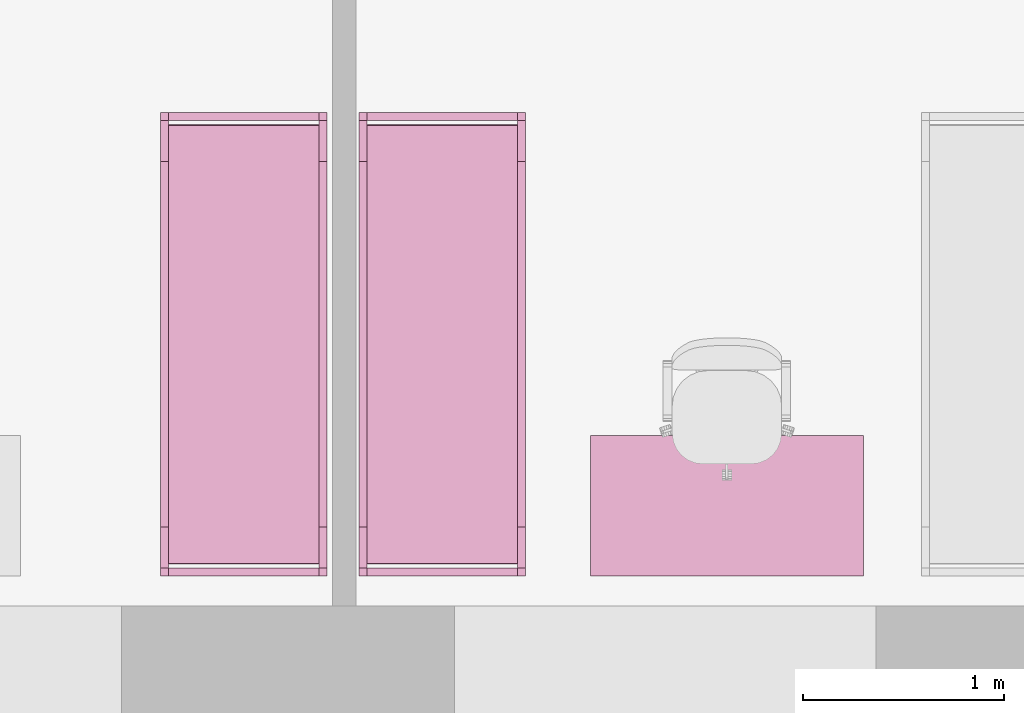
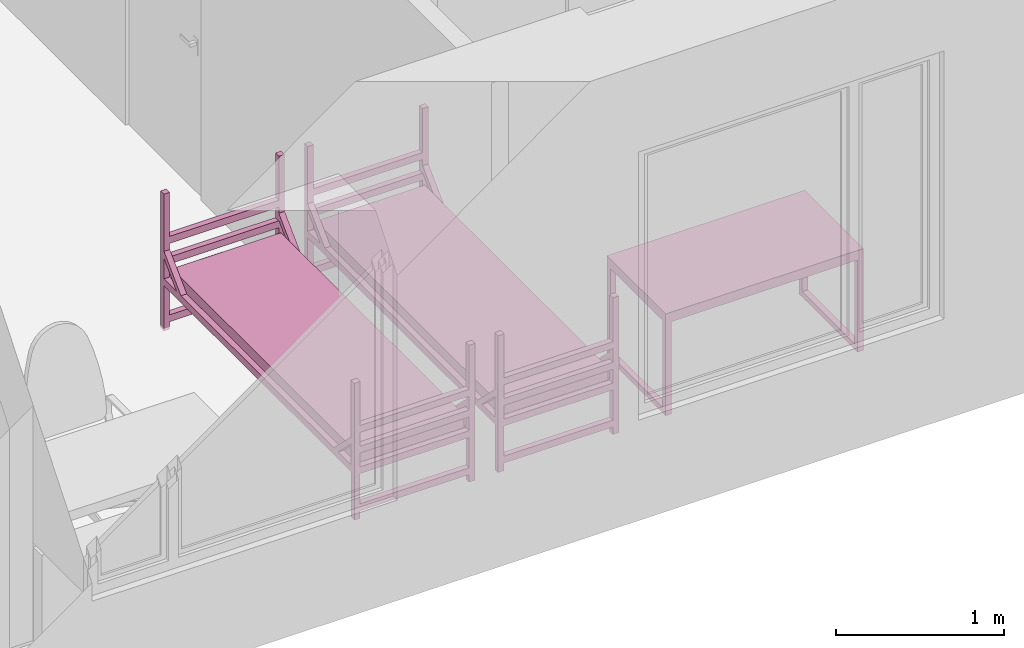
# One storey, part 31 of 48: 3 furnishings.
"""IFC2X3 building model written with IfcOpenShell, lengths in millimetres."""

from ifc_helpers import new_model, entity, si_unit, converted_unit, derived_unit, direction, frame, frame_2d, origin, origin_2d_with_axis, place, context, subcontext, project, spatial, polyline, circle_curve, parameter, trimmed, segment, composite_curve, rectangle, outline, extrude, faceted_brep, source, transform, mapped, material, material_list, type_object, type_shapes, element, save


model = new_model("IFC2X3")

# Units and contexts
model_context = context("Model", 3, precision=0.01, world=origin(), true_north=direction((6.12303176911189e-17, 1.0)))
body_context = subcontext(model_context, "Body", "Model", "MODEL_VIEW")
ifc_project = project(units=[si_unit("LENGTHUNIT", "METRE", prefix="MILLI"), si_unit("AREAUNIT", "SQUARE_METRE"), si_unit("VOLUMEUNIT", "CUBIC_METRE"), converted_unit("PLANEANGLEUNIT", "DEGREE", entity("IfcRatioMeasure", 0.0174532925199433), si_unit("PLANEANGLEUNIT", "RADIAN"), dimensions=[0, 0, 0, 0, 0, 0, 0]), si_unit("MASSUNIT", "GRAM", prefix="KILO"), derived_unit("MASSDENSITYUNIT", [(si_unit("MASSUNIT", "GRAM", prefix="KILO"), 1), (si_unit("LENGTHUNIT", "METRE"), -3)]), si_unit("TIMEUNIT", "SECOND"), si_unit("FREQUENCYUNIT", "HERTZ"), si_unit("THERMODYNAMICTEMPERATUREUNIT", "DEGREE_CELSIUS"), derived_unit("THERMALTRANSMITTANCEUNIT", [(si_unit("MASSUNIT", "GRAM", prefix="KILO"), 1), (si_unit("THERMODYNAMICTEMPERATUREUNIT", "KELVIN"), -1), (si_unit("TIMEUNIT", "SECOND"), -3)]), derived_unit("VOLUMETRICFLOWRATEUNIT", [(si_unit("LENGTHUNIT", "METRE"), 3), (si_unit("TIMEUNIT", "SECOND"), -1)]), si_unit("ELECTRICCURRENTUNIT", "AMPERE"), si_unit("ELECTRICVOLTAGEUNIT", "VOLT"), si_unit("POWERUNIT", "WATT"), si_unit("FORCEUNIT", "NEWTON", prefix="KILO"), si_unit("ILLUMINANCEUNIT", "LUX"), si_unit("LUMINOUSFLUXUNIT", "LUMEN"), si_unit("LUMINOUSINTENSITYUNIT", "CANDELA"), derived_unit("USERDEFINED", [(si_unit("MASSUNIT", "GRAM", prefix="KILO"), -1), (si_unit("LENGTHUNIT", "METRE"), -2), (si_unit("TIMEUNIT", "SECOND"), 3), (si_unit("LUMINOUSFLUXUNIT", "LUMEN"), 1)]), derived_unit("LINEARVELOCITYUNIT", [(si_unit("LENGTHUNIT", "METRE"), 1), (si_unit("TIMEUNIT", "SECOND"), -1)]), si_unit("PRESSUREUNIT", "PASCAL"), derived_unit("USERDEFINED", [(si_unit("LENGTHUNIT", "METRE"), -2), (si_unit("MASSUNIT", "GRAM", prefix="KILO"), 1), (si_unit("TIMEUNIT", "SECOND"), -2)]), derived_unit("LINEARFORCEUNIT", [(si_unit("MASSUNIT", "GRAM", prefix="KILO"), 1), (si_unit("LENGTHUNIT", "METRE"), 1), (si_unit("TIMEUNIT", "SECOND"), -2), (si_unit("LENGTHUNIT", "METRE"), -1)]), derived_unit("PLANARFORCEUNIT", [(si_unit("MASSUNIT", "GRAM", prefix="KILO"), 1), (si_unit("LENGTHUNIT", "METRE"), 1), (si_unit("TIMEUNIT", "SECOND"), -2), (si_unit("LENGTHUNIT", "METRE"), -2)])], contexts=[model_context])

# Site, building, storey, space
site_placement = place(None, origin())
site = spatial("IfcSite", under=ifc_project, at=site_placement, Name="Default", CompositionType="ELEMENT")
building_placement = place(site_placement, origin())
building = spatial("IfcBuilding", under=site, at=building_placement, Name="SMA ARH", CompositionType="ELEMENT")
storey_placement = place(building_placement, frame((0.0, 0.0, 6600.0)))
storey = spatial("IfcBuildingStorey", under=building, at=storey_placement, Name="3 Korrus", CompositionType="ELEMENT", Elevation=6599.99999999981)
space_1_placement = place(storey_placement, origin())
space_1 = spatial("IfcSpace", under=storey, at=space_1_placement, Name="3-9", CompositionType="ELEMENT", InteriorOrExteriorSpace="INTERNAL")

# Furnishing
ifc_material_1 = material(Name="Madrats")
furniture_type_1 = type_object("IfcFurnitureType", Name="Kasarmu voodi ühekordne 2308x830:Kasarmu voodi ühekordne 2308x830", material=ifc_material_1)
shared_shape_1 = source(origin(), body_context, "Body", "SweptSolid", [
    extrude(rectangle(XDim=39.9999999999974, YDim=750.000000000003, at=frame_2d((-1.35003119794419e-13, -2.8421709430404e-14), x_axis=(1.0, 0.0))), frame((1.68638457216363, -1226.7969571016, 55.0), z_axis=(0.0, 0.0, 1.0), x_axis=(0.0, -1.0, 0.0)), (0.0, 0.0, 1.0), 49.9999999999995),
    extrude(rectangle(XDim=39.9999999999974, YDim=750.000000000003, at=frame_2d((-1.35003119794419e-13, -2.8421709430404e-14), x_axis=(1.0, 0.0))), frame((1.68638457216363, -1226.7969571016, 325.0), z_axis=(0.0, 0.0, 1.0), x_axis=(0.0, -1.0, 0.0)), (0.0, 0.0, 1.0), 49.9999999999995),
    extrude(rectangle(XDim=39.9999999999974, YDim=750.000000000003, at=frame_2d((-1.35003119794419e-13, -2.8421709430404e-14), x_axis=(1.0, 0.0))), frame((1.68638457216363, -1226.7969571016, 475.0), z_axis=(0.0, 0.0, 1.0), x_axis=(0.0, -1.0, 0.0)), (0.0, 0.0, 1.0), 49.9999999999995),
    extrude(rectangle(XDim=39.9999999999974, YDim=750.000000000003, at=frame_2d((-1.35003119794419e-13, -2.8421709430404e-14), x_axis=(1.0, 0.0))), frame((1.68638457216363, -1226.7969571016, 625.0), z_axis=(0.0, 0.0, 1.0), x_axis=(0.0, -1.0, 0.0)), (0.0, 0.0, 1.0), 50.0000000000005),
    extrude(rectangle(XDim=39.9999999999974, YDim=750.000000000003, at=frame_2d((1.35003119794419e-13, -2.8421709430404e-14), x_axis=(1.0, 0.0))), frame((1.68638457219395, 1041.2030428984, 55.0), z_axis=(0.0, 0.0, 1.0), x_axis=(0.0, -1.0, 0.0)), (0.0, 0.0, 1.0), 50.0000000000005),
    extrude(rectangle(XDim=39.9999999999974, YDim=750.000000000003, at=frame_2d((1.35003119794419e-13, -2.8421709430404e-14), x_axis=(1.0, 0.0))), frame((1.68638457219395, 1041.2030428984, 325.0), z_axis=(0.0, 0.0, 1.0), x_axis=(0.0, -1.0, 0.0)), (0.0, 0.0, 1.0), 50.0000000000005),
    extrude(rectangle(XDim=39.9999999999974, YDim=750.000000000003, at=frame_2d((1.35003119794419e-13, -2.8421709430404e-14), x_axis=(1.0, 0.0))), frame((1.68638457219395, 1041.2030428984, 475.0), z_axis=(0.0, 0.0, 1.0), x_axis=(0.0, -1.0, 0.0)), (0.0, 0.0, 1.0), 50.0000000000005),
    extrude(rectangle(XDim=39.9999999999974, YDim=750.000000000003, at=frame_2d((1.35003119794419e-13, -2.8421709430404e-14), x_axis=(1.0, 0.0))), frame((1.68638457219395, 1041.2030428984, 625.0), z_axis=(0.0, 0.0, 1.0), x_axis=(0.0, -1.0, 0.0)), (0.0, 0.0, 1.0), 49.9999999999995),
    extrude(outline(composite_curve([segment(trimmed(circle_curve(frame_2d((1085.0, -40.0), x_axis=(1.0, 0.0)), 10.0), [parameter(270.0)], [parameter(0.0)], True, "PARAMETER"), True, "CONTINUOUS"), segment(polyline([(1095.0, -40.0), (1095.0, 40.0)]), True, "CONTINUOUS"), segment(trimmed(circle_curve(frame_2d((1085.0, 40.0), x_axis=(1.0, 0.0)), 10.0), [parameter(0.0)], [parameter(90.0000000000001)], True, "PARAMETER"), True, "CONTINUOUS"), segment(polyline([(1085.0, 50.0), (-1085.0, 50.0)]), True, "CONTINUOUS"), segment(trimmed(circle_curve(frame_2d((-1085.0, 40.0), x_axis=(1.0, 0.0)), 10.0), [parameter(90.0000000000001)], [parameter(180.0)], True, "PARAMETER"), True, "CONTINUOUS"), segment(polyline([(-1095.0, 40.0), (-1095.0, -40.0)]), True, "CONTINUOUS"), segment(trimmed(circle_curve(frame_2d((-1085.0, -40.0), x_axis=(1.0, 0.0)), 10.0), [parameter(180.0)], [parameter(270.0)], True, "PARAMETER"), True, "CONTINUOUS"), segment(polyline([(-1085.0, -50.0), (1085.0, -50.0)]), True, "CONTINUOUS")], self_intersect=False)), frame((-373.313615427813, -92.7969571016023, 405.0), z_axis=(1.0, 0.0, 0.0), x_axis=(0.0, -1.0, 0.0)), (0.0, 0.0, 1.0), 750.000000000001),
    extrude(outline(polyline([(-1114.0, -100.0), (1114.0, -100.0), (1114.0, -50.0), (961.59199141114, -50.0), (1114.0, 100.0), (1114.0, 150.0), (910.789321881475, -50.0), (-910.789321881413, -50.0), (-1114.0, 150.0), (-1114.0, 100.0), (-961.591991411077, -50.0), (-1114.0, -50.0), (-1114.0, -100.0)])), frame((-413.313615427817, -92.7969571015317, 430.0), z_axis=(1.0, 0.0, 0.0), x_axis=(0.0, 1.0, 0.0)), (0.0, 0.0, 1.0), 39.9999999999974),
    extrude(outline(polyline([(-1114.0, -100.0), (1114.0, -100.0), (1114.0, -50.0), (961.591991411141, -50.0), (1114.0, 100.0), (1114.0, 150.0), (910.789321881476, -50.0), (-910.789321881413, -50.0), (-1114.0, 150.0), (-1114.0, 100.0), (-961.591991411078, -50.0), (-1114.0, -50.0), (-1114.0, -100.0)])), frame((376.686384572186, -92.796957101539, 430.0), z_axis=(1.0, 0.0, 0.0), x_axis=(0.0, 1.0, 0.0)), (0.0, 0.0, 1.0), 39.9999999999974),
    extrude(rectangle(XDim=39.9999999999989, YDim=39.9999999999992, at=frame_2d((-6.75015598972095e-14, 0.0), x_axis=(1.0, 0.0))), frame((396.686384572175, -1226.79695710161, 0.0), z_axis=(0.0, 0.0, 1.0), x_axis=(0.0, 1.0, 0.0)), (0.0, 0.0, 1.0), 995.0),
    extrude(rectangle(XDim=39.9999999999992, YDim=39.9999999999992, at=frame_2d((-1.35003119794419e-13, 0.0), x_axis=(1.0, 0.0))), frame((396.686384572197, 1041.20304289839, 0.0), z_axis=(0.0, 0.0, 1.0), x_axis=(0.0, 1.0, 0.0)), (0.0, 0.0, 1.0), 995.0),
    extrude(rectangle(XDim=40.0000000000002, YDim=39.9999999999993, at=frame_2d((-1.35003119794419e-13, 0.0), x_axis=(1.0, 0.0))), frame((-393.313615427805, 1041.2030428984, 0.0), z_axis=(0.0, 0.0, 1.0), x_axis=(0.0, 1.0, 0.0)), (0.0, 0.0, 1.0), 995.0),
    extrude(rectangle(XDim=39.9999999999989, YDim=39.9999999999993, at=frame_2d((-6.75015598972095e-14, 0.0), x_axis=(1.0, 0.0))), frame((-393.313615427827, -1226.7969571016, 0.0), z_axis=(0.0, 0.0, 1.0), x_axis=(0.0, 1.0, 0.0)), (0.0, 0.0, 1.0), 995.0),
])
type_shapes(furniture_type_1, [shared_shape_1])
furnishing_1_placement = place(space_1_placement, frame((19032.1863845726, 1211.20304289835, 0.0), z_axis=(0.0, 0.0, 1.0), x_axis=(-1.0, 0.0, 0.0)))
element("IfcFurnishingElement", 1, at=furnishing_1_placement, inside=space_1, type_object=furniture_type_1, material=ifc_material_1, Name="Kasarmu voodi ühekordne 2308x830:Kasarmu voodi ühekordne 2308x830", ObjectType="Kasarmu voodi ühekordne 2308x830:Kasarmu voodi ühekordne 2308x830", context=body_context, shape_type="MappedRepresentation", body=[
    mapped(shared_shape_1, transform((0.0, 0.0, 0.0), scale=1.0)),
])

# Space
space_2_placement = place(storey_placement, origin())
space_2 = spatial("IfcSpace", under=storey, at=space_2_placement, Name="3-8", CompositionType="ELEMENT", InteriorOrExteriorSpace="INTERNAL")

# Furnishings
ifc_material_2 = material(Name="<Unnamed>")
ifc_material_list = material_list([ifc_material_2, ifc_material_2])
furniture_type_2 = type_object("IfcFurnitureType", Name="kirjutuslaud 1360x700mm:kirjutuslaud 1360x700mm", material=ifc_material_list)
shared_shape_2 = source(origin(), body_context, "Body", "Brep", [
    faceted_brep([(680.0, -350.0, 720.0), (680.0, 350.0, 720.0), (680.0, 350.0, 750.0), (680.0, -350.0, 750.0), (-680.0, -350.0, 720.0), (-680.0, -350.0, 750.0), (-680.0, 350.0, 750.0), (-680.0, 350.0, 720.0)], [[[0, 1, 2, 3]], [[4, 5, 6, 7]], [[1, 0, 4, 7]], [[2, 1, 7, 6]], [[3, 2, 6, 5]], [[0, 3, 5, 4]]]),
    faceted_brep([(-640.0, -310.0, 680.0), (-640.0, 310.0, 680.0), (-640.0, 310.0, 720.0), (-640.0, -310.0, 720.0), (-680.0, -350.0, 720.0), (-680.0, 350.0, 720.0), (-680.0, 350.0, 10.0), (-680.0, -350.0, 10.0), (-680.0, 310.0, 680.0), (-680.0, -310.0, 680.0), (-680.0, -310.0, 50.0), (-680.0, 310.0, 50.0), (-640.0, -350.0, 10.0), (-640.0, -350.0, 680.0), (640.0, -350.0, 680.0), (640.0, -350.0, 10.0), (680.0, -350.0, 10.0), (680.0, -350.0, 720.0), (-640.0, 350.0, 10.0), (680.0, 350.0, 720.0), (680.0, 350.0, 10.0), (640.0, 350.0, 10.0), (640.0, 350.0, 680.0), (-640.0, 350.0, 680.0), (640.0, 310.0, 720.0), (640.0, -310.0, 720.0), (-640.0, 310.0, 50.0), (-640.0, -310.0, 50.0), (640.0, -310.0, 680.0), (640.0, 310.0, 680.0), (680.0, 310.0, 680.0), (680.0, 310.0, 50.0), (680.0, -310.0, 50.0), (680.0, -310.0, 680.0), (640.0, -310.0, 50.0), (640.0, 310.0, 50.0)], [[[0, 1, 2, 3]], [[4, 5, 6, 7], [8, 9, 10, 11]], [[4, 7, 12, 13, 14, 15, 16, 17]], [[18, 12, 7, 6]], [[6, 5, 19, 20, 21, 22, 23, 18]], [[19, 5, 4, 17], [2, 24, 25, 3]], [[26, 1, 8, 11]], [[27, 26, 11, 10]], [[0, 27, 10, 9]], [[1, 0, 9, 8]], [[14, 13, 0, 28]], [[24, 2, 1, 29]], [[3, 25, 28, 0]], [[17, 16, 20, 19], [30, 31, 32, 33]], [[21, 15, 14, 28, 34, 35, 29, 22]], [[20, 16, 15, 21]], [[31, 30, 29, 35]], [[32, 31, 35, 34]], [[33, 32, 34, 28]], [[30, 33, 28, 29]], [[29, 28, 25, 24]], [[29, 1, 23, 22]], [[12, 18, 23, 1, 26, 27, 0, 13]]]),
    faceted_brep([(-663.729456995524, -270.466136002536, 0.0), (-659.847171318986, -269.955023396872, 0.0), (-655.964885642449, -270.466136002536, 0.0), (-652.347171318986, -271.964642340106, 0.0), (-649.240569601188, -274.348421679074, 0.0), (-646.85679026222, -277.455023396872, 0.0), (-645.35828392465, -281.072737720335, 0.0), (-644.847171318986, -284.955023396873, 0.0), (-645.35828392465, -288.83730907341, 0.0), (-646.85679026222, -292.455023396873, 0.0), (-649.240569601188, -295.561625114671, 0.0), (-652.347171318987, -297.945404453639, 0.0), (-655.964885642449, -299.443910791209, 0.0), (-659.847171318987, -299.955023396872, 0.0), (-663.729456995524, -299.443910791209, 0.0), (-667.347171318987, -297.945404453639, 0.0), (-670.453773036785, -295.561625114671, 0.0), (-672.837552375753, -292.455023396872, 0.0), (-674.336058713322, -288.83730907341, 0.0), (-674.847171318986, -284.955023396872, 0.0), (-674.336058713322, -281.072737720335, 0.0), (-672.837552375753, -277.455023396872, 0.0), (-670.453773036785, -274.348421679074, 0.0), (-667.347171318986, -271.964642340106, 0.0), (-655.964885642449, -299.443910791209, 10.0), (-652.347171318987, -297.945404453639, 10.0), (-649.240569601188, -295.561625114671, 10.0), (-646.85679026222, -292.455023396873, 10.0), (-645.35828392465, -288.83730907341, 10.0), (-644.847171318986, -284.955023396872, 10.0), (-645.35828392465, -281.072737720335, 10.0), (-646.85679026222, -277.455023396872, 10.0), (-649.240569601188, -274.348421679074, 10.0), (-652.347171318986, -271.964642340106, 10.0), (-655.964885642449, -270.466136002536, 10.0), (-659.847171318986, -269.955023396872, 10.0), (-663.729456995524, -270.466136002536, 10.0), (-667.347171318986, -271.964642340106, 10.0), (-670.453773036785, -274.348421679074, 10.0), (-672.837552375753, -277.455023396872, 10.0), (-674.336058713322, -281.072737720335, 10.0), (-674.847171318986, -284.955023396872, 10.0), (-674.336058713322, -288.83730907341, 10.0), (-672.837552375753, -292.455023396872, 10.0), (-670.453773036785, -295.561625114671, 10.0), (-667.347171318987, -297.945404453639, 10.0), (-663.729456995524, -299.443910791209, 10.0), (-659.847171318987, -299.955023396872, 10.0)], [[[0, 1, 2, 3, 4, 5, 6, 7, 8, 9, 10, 11, 12, 13, 14, 15, 16, 17, 18, 19, 20, 21, 22, 23]], [[24, 25, 26, 27, 28, 29, 30, 31, 32, 33, 34, 35, 36, 37, 38, 39, 40, 41, 42, 43, 44, 45, 46, 47]], [[18, 42, 41, 19]], [[17, 43, 42, 18]], [[45, 44, 16, 15]], [[17, 16, 44, 43]], [[46, 45, 15, 14]], [[47, 46, 14, 13]], [[12, 24, 47, 13]], [[11, 25, 24, 12]], [[27, 26, 10, 9]], [[11, 10, 26, 25]], [[28, 27, 9, 8]], [[29, 28, 8, 7]], [[6, 30, 29, 7]], [[5, 31, 30, 6]], [[33, 32, 4, 3]], [[5, 4, 32, 31]], [[34, 33, 3, 2]], [[35, 34, 2, 1]], [[0, 36, 35, 1]], [[23, 37, 36, 0]], [[39, 38, 22, 21]], [[23, 22, 38, 37]], [[40, 39, 21, 20]], [[41, 40, 20, 19]]]),
    faceted_brep([(-655.964885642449, 270.466136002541, 10.0), (-652.347171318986, 271.964642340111, 10.0), (-649.240569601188, 274.348421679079, 10.0), (-646.85679026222, 277.455023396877, 10.0), (-645.35828392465, 281.07273772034, 10.0), (-644.847171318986, 284.955023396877, 10.0), (-645.35828392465, 288.837309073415, 10.0), (-646.85679026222, 292.455023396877, 10.0), (-649.240569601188, 295.561625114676, 10.0), (-652.347171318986, 297.945404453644, 10.0), (-655.964885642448, 299.443910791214, 10.0), (-659.847171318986, 299.955023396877, 10.0), (-663.729456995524, 299.443910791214, 10.0), (-667.347171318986, 297.945404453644, 10.0), (-670.453773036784, 295.561625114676, 10.0), (-672.837552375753, 292.455023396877, 10.0), (-674.336058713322, 288.837309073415, 10.0), (-674.847171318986, 284.955023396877, 10.0), (-674.336058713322, 281.07273772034, 10.0), (-672.837552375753, 277.455023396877, 10.0), (-670.453773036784, 274.348421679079, 10.0), (-667.347171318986, 271.964642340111, 10.0), (-663.729456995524, 270.466136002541, 10.0), (-659.847171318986, 269.955023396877, 10.0), (-655.964885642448, 299.443910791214, 0.0), (-652.347171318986, 297.945404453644, 0.0), (-649.240569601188, 295.561625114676, 0.0), (-646.85679026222, 292.455023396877, 0.0), (-645.35828392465, 288.837309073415, 0.0), (-644.847171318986, 284.955023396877, 0.0), (-645.35828392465, 281.07273772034, 0.0), (-646.85679026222, 277.455023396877, 0.0), (-649.240569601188, 274.348421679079, 0.0), (-652.347171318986, 271.964642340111, 0.0), (-655.964885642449, 270.466136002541, 0.0), (-659.847171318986, 269.955023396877, 0.0), (-663.729456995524, 270.466136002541, 0.0), (-667.347171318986, 271.964642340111, 0.0), (-670.453773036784, 274.348421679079, 0.0), (-672.837552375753, 277.455023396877, 0.0), (-674.336058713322, 281.07273772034, 0.0), (-674.847171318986, 284.955023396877, 0.0), (-674.336058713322, 288.837309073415, 0.0), (-672.837552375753, 292.455023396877, 0.0), (-670.453773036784, 295.561625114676, 0.0), (-667.347171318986, 297.945404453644, 0.0), (-663.729456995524, 299.443910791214, 0.0), (-659.847171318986, 299.955023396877, 0.0)], [[[0, 1, 2, 3, 4, 5, 6, 7, 8, 9, 10, 11, 12, 13, 14, 15, 16, 17, 18, 19, 20, 21, 22, 23]], [[24, 25, 26, 27, 28, 29, 30, 31, 32, 33, 34, 35, 36, 37, 38, 39, 40, 41, 42, 43, 44, 45, 46, 47]], [[40, 18, 17, 41]], [[39, 19, 18, 40]], [[21, 20, 38, 37]], [[39, 38, 20, 19]], [[22, 21, 37, 36]], [[23, 22, 36, 35]], [[34, 0, 23, 35]], [[33, 1, 0, 34]], [[3, 2, 32, 31]], [[33, 32, 2, 1]], [[4, 3, 31, 30]], [[5, 4, 30, 29]], [[28, 6, 5, 29]], [[27, 7, 6, 28]], [[9, 8, 26, 25]], [[27, 26, 8, 7]], [[10, 9, 25, 24]], [[11, 10, 24, 47]], [[46, 12, 11, 47]], [[45, 13, 12, 46]], [[15, 14, 44, 43]], [[45, 44, 14, 13]], [[16, 15, 43, 42]], [[17, 16, 42, 41]]]),
    faceted_brep([(656.270543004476, -270.466136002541, 0.0), (660.152828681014, -269.955023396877, 0.0), (664.035114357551, -270.466136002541, 0.0), (667.652828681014, -271.96464234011, 0.0), (670.759430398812, -274.348421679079, 0.0), (673.14320973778, -277.455023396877, 0.0), (674.64171607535, -281.072737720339, 0.0), (675.152828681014, -284.955023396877, 0.0), (674.64171607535, -288.837309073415, 0.0), (673.14320973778, -292.455023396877, 0.0), (670.759430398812, -295.561625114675, 0.0), (667.652828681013, -297.945404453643, 0.0), (664.035114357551, -299.443910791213, 0.0), (660.152828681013, -299.955023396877, 0.0), (656.270543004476, -299.443910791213, 0.0), (652.652828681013, -297.945404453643, 0.0), (649.546226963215, -295.561625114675, 0.0), (647.162447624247, -292.455023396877, 0.0), (645.663941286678, -288.837309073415, 0.0), (645.152828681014, -284.955023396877, 0.0), (645.663941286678, -281.072737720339, 0.0), (647.162447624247, -277.455023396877, 0.0), (649.546226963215, -274.348421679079, 0.0), (652.652828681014, -271.96464234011, 0.0), (664.035114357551, -299.443910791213, 10.0), (667.652828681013, -297.945404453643, 10.0), (670.759430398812, -295.561625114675, 10.0), (673.14320973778, -292.455023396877, 10.0), (674.64171607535, -288.837309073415, 10.0), (675.152828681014, -284.955023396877, 10.0), (674.64171607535, -281.072737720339, 10.0), (673.14320973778, -277.455023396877, 10.0), (670.759430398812, -274.348421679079, 10.0), (667.652828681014, -271.96464234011, 10.0), (664.035114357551, -270.466136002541, 10.0), (660.152828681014, -269.955023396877, 10.0), (656.270543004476, -270.466136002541, 10.0), (652.652828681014, -271.96464234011, 10.0), (649.546226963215, -274.348421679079, 10.0), (647.162447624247, -277.455023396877, 10.0), (645.663941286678, -281.072737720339, 10.0), (645.152828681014, -284.955023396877, 10.0), (645.663941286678, -288.837309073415, 10.0), (647.162447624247, -292.455023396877, 10.0), (649.546226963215, -295.561625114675, 10.0), (652.652828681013, -297.945404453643, 10.0), (656.270543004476, -299.443910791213, 10.0), (660.152828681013, -299.955023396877, 10.0)], [[[0, 1, 2, 3, 4, 5, 6, 7, 8, 9, 10, 11, 12, 13, 14, 15, 16, 17, 18, 19, 20, 21, 22, 23]], [[24, 25, 26, 27, 28, 29, 30, 31, 32, 33, 34, 35, 36, 37, 38, 39, 40, 41, 42, 43, 44, 45, 46, 47]], [[18, 42, 41, 19]], [[17, 43, 42, 18]], [[45, 44, 16, 15]], [[17, 16, 44, 43]], [[46, 45, 15, 14]], [[47, 46, 14, 13]], [[12, 24, 47, 13]], [[11, 25, 24, 12]], [[27, 26, 10, 9]], [[11, 10, 26, 25]], [[28, 27, 9, 8]], [[29, 28, 8, 7]], [[6, 30, 29, 7]], [[5, 31, 30, 6]], [[33, 32, 4, 3]], [[5, 4, 32, 31]], [[34, 33, 3, 2]], [[35, 34, 2, 1]], [[0, 36, 35, 1]], [[23, 37, 36, 0]], [[39, 38, 22, 21]], [[23, 22, 38, 37]], [[40, 39, 21, 20]], [[41, 40, 20, 19]]]),
    faceted_brep([(664.035114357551, 270.466136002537, 10.0), (667.652828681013, 271.964642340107, 10.0), (670.759430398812, 274.348421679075, 10.0), (673.14320973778, 277.455023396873, 10.0), (674.64171607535, 281.072737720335, 10.0), (675.152828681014, 284.955023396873, 10.0), (674.64171607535, 288.837309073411, 10.0), (673.14320973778, 292.455023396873, 10.0), (670.759430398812, 295.561625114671, 10.0), (667.652828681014, 297.94540445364, 10.0), (664.035114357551, 299.443910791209, 10.0), (660.152828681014, 299.955023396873, 10.0), (656.270543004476, 299.443910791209, 10.0), (652.652828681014, 297.94540445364, 10.0), (649.546226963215, 295.561625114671, 10.0), (647.162447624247, 292.455023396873, 10.0), (645.663941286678, 288.837309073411, 10.0), (645.152828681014, 284.955023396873, 10.0), (645.663941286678, 281.072737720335, 10.0), (647.162447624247, 277.455023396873, 10.0), (649.546226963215, 274.348421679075, 10.0), (652.652828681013, 271.964642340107, 10.0), (656.270543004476, 270.466136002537, 10.0), (660.152828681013, 269.955023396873, 10.0), (664.035114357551, 299.443910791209, 0.0), (667.652828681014, 297.94540445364, 0.0), (670.759430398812, 295.561625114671, 0.0), (673.14320973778, 292.455023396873, 0.0), (674.64171607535, 288.837309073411, 0.0), (675.152828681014, 284.955023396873, 0.0), (674.64171607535, 281.072737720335, 0.0), (673.14320973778, 277.455023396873, 0.0), (670.759430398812, 274.348421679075, 0.0), (667.652828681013, 271.964642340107, 0.0), (664.035114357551, 270.466136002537, 0.0), (660.152828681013, 269.955023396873, 0.0), (656.270543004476, 270.466136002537, 0.0), (652.652828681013, 271.964642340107, 0.0), (649.546226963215, 274.348421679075, 0.0), (647.162447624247, 277.455023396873, 0.0), (645.663941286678, 281.072737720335, 0.0), (645.152828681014, 284.955023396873, 0.0), (645.663941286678, 288.837309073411, 0.0), (647.162447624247, 292.455023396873, 0.0), (649.546226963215, 295.561625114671, 0.0), (652.652828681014, 297.94540445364, 0.0), (656.270543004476, 299.443910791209, 0.0), (660.152828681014, 299.955023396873, 0.0)], [[[0, 1, 2, 3, 4, 5, 6, 7, 8, 9, 10, 11, 12, 13, 14, 15, 16, 17, 18, 19, 20, 21, 22, 23]], [[24, 25, 26, 27, 28, 29, 30, 31, 32, 33, 34, 35, 36, 37, 38, 39, 40, 41, 42, 43, 44, 45, 46, 47]], [[40, 18, 17, 41]], [[39, 19, 18, 40]], [[21, 20, 38, 37]], [[39, 38, 20, 19]], [[22, 21, 37, 36]], [[23, 22, 36, 35]], [[34, 0, 23, 35]], [[33, 1, 0, 34]], [[3, 2, 32, 31]], [[33, 32, 2, 1]], [[4, 3, 31, 30]], [[5, 4, 30, 29]], [[28, 6, 5, 29]], [[27, 7, 6, 28]], [[9, 8, 26, 25]], [[27, 26, 8, 7]], [[10, 9, 25, 24]], [[11, 10, 24, 47]], [[46, 12, 11, 47]], [[45, 13, 12, 46]], [[15, 14, 44, 43]], [[45, 44, 14, 13]], [[16, 15, 43, 42]], [[17, 16, 42, 41]]]),
])
type_shapes(furniture_type_2, [shared_shape_2])
furnishing_2_placement = place(space_2_placement, frame((21437.0, 500.0, 0.0)))
element("IfcFurnishingElement", 2, at=furnishing_2_placement, inside=space_2, type_object=furniture_type_2, Name="kirjutuslaud 1360x700mm:kirjutuslaud 1360x700mm", ObjectType="kirjutuslaud 1360x700mm:kirjutuslaud 1360x700mm", context=body_context, shape_type="MappedRepresentation", body=[
    mapped(shared_shape_2, transform((0.0, 0.0, 0.0), scale=1.0)),
])
furniture_type_3 = type_object("IfcFurnitureType", Name="Kasarmu voodi ühekordne 2308x830:Kasarmu voodi ühekordne 2308x830", material=ifc_material_1)
shared_shape_3 = source(origin(), body_context, "Body", "SweptSolid", [
    extrude(rectangle(XDim=750.000000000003, YDim=39.9999999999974, at=frame_2d((0.0, 1.35003119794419e-13), x_axis=(1.0, 0.0))), frame((1.68638457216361, 1226.7969571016, 55.0)), (0.0, 0.0, 1.0), 49.9999999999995),
    extrude(rectangle(XDim=750.000000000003, YDim=39.9999999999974, at=frame_2d((0.0, 1.35003119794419e-13), x_axis=(1.0, 0.0))), frame((1.68638457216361, 1226.7969571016, 325.0)), (0.0, 0.0, 1.0), 49.9999999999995),
    extrude(rectangle(XDim=750.000000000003, YDim=39.9999999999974, at=frame_2d((0.0, 1.35003119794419e-13), x_axis=(1.0, 0.0))), frame((1.68638457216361, 1226.7969571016, 475.0)), (0.0, 0.0, 1.0), 49.9999999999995),
    extrude(rectangle(XDim=750.000000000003, YDim=39.9999999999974, at=frame_2d((0.0, 1.35003119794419e-13), x_axis=(1.0, 0.0))), frame((1.68638457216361, 1226.7969571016, 625.0)), (0.0, 0.0, 1.0), 50.0000000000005),
    extrude(rectangle(XDim=750.000000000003, YDim=39.9999999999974, at=origin_2d_with_axis()), frame((1.68638457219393, -1041.2030428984, 55.0)), (0.0, 0.0, 1.0), 50.0000000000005),
    extrude(rectangle(XDim=750.000000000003, YDim=39.9999999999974, at=origin_2d_with_axis()), frame((1.68638457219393, -1041.2030428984, 325.0)), (0.0, 0.0, 1.0), 50.0000000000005),
    extrude(rectangle(XDim=750.000000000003, YDim=39.9999999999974, at=origin_2d_with_axis()), frame((1.68638457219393, -1041.2030428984, 475.0)), (0.0, 0.0, 1.0), 50.0000000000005),
    extrude(rectangle(XDim=750.000000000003, YDim=39.9999999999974, at=origin_2d_with_axis()), frame((1.68638457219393, -1041.2030428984, 625.0)), (0.0, 0.0, 1.0), 49.9999999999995),
    extrude(outline(composite_curve([segment(polyline([(-1085.0, -50.0), (1085.0, -50.0)]), True, "CONTINUOUS"), segment(trimmed(circle_curve(frame_2d((1085.0, -40.0), x_axis=(-1.0, 0.0)), 10.0), [parameter(90.0000000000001)], [parameter(180.0)], True, "PARAMETER"), True, "CONTINUOUS"), segment(polyline([(1095.0, -40.0), (1095.0, 40.0)]), True, "CONTINUOUS"), segment(trimmed(circle_curve(frame_2d((1085.0, 40.0), x_axis=(-1.0, 0.0)), 10.0), [parameter(180.0)], [parameter(270.0)], True, "PARAMETER"), True, "CONTINUOUS"), segment(polyline([(1085.0, 50.0), (-1085.0, 50.0)]), True, "CONTINUOUS"), segment(trimmed(circle_curve(frame_2d((-1085.0, 40.0), x_axis=(-1.0, 0.0)), 10.0), [parameter(270.0)], [parameter(0.0)], True, "PARAMETER"), True, "CONTINUOUS"), segment(polyline([(-1095.0, 40.0), (-1095.0, -40.0)]), True, "CONTINUOUS"), segment(trimmed(circle_curve(frame_2d((-1085.0, -40.0), x_axis=(-1.0, 0.0)), 10.0), [parameter(0.0)], [parameter(90.0000000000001)], True, "PARAMETER"), True, "CONTINUOUS")], self_intersect=False)), frame((-373.313615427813, 92.7969571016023, 405.0), z_axis=(1.0, 0.0, 0.0), x_axis=(0.0, -1.0, 0.0)), (0.0, 0.0, 1.0), 750.000000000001),
    extrude(outline(polyline([(-100.0, -1114.0), (-50.0, -1114.0), (-50.0, -961.591991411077), (100.0, -1114.0), (150.0, -1114.0), (-50.0, -910.789321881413), (-50.0, 910.789321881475), (150.0, 1114.0), (100.0, 1114.0), (-50.0, 961.591991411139), (-50.0, 1114.0), (-100.0, 1114.0), (-100.0, -1114.0)])), frame((-413.313615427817, 92.7969571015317, 430.0), z_axis=(1.0, 0.0, 0.0), x_axis=(0.0, 0.0, 1.0)), (0.0, 0.0, 1.0), 39.9999999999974),
    extrude(outline(polyline([(-100.0, -1114.0), (-50.0, -1114.0), (-50.0, -961.591991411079), (100.0, -1114.0), (150.0, -1114.0), (-50.0, -910.789321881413), (-50.0, 910.789321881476), (150.0, 1114.0), (100.0, 1114.0), (-50.0, 961.591991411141), (-50.0, 1114.0), (-100.0, 1114.0), (-100.0, -1114.0)])), frame((376.686384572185, 92.796957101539, 430.0), z_axis=(1.0, 0.0, 0.0), x_axis=(0.0, 0.0, 1.0)), (0.0, 0.0, 1.0), 39.9999999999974),
    extrude(rectangle(XDim=39.9999999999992, YDim=39.9999999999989, at=frame_2d((0.0, -6.75015598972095e-14), x_axis=(1.0, 0.0))), frame((396.686384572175, 1226.79695710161, 0.0), z_axis=(0.0, 0.0, 1.0), x_axis=(-1.0, 0.0, 0.0)), (0.0, 0.0, 1.0), 995.0),
    extrude(rectangle(XDim=39.9999999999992, YDim=39.9999999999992, at=origin_2d_with_axis()), frame((396.686384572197, -1041.20304289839, 0.0), z_axis=(0.0, 0.0, 1.0), x_axis=(-1.0, 0.0, 0.0)), (0.0, 0.0, 1.0), 995.0),
    extrude(rectangle(XDim=39.9999999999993, YDim=40.0000000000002, at=origin_2d_with_axis()), frame((-393.313615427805, -1041.2030428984, 0.0), z_axis=(0.0, 0.0, 1.0), x_axis=(-1.0, 0.0, 0.0)), (0.0, 0.0, 1.0), 995.0),
    extrude(rectangle(XDim=39.9999999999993, YDim=39.9999999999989, at=frame_2d((0.0, -6.75015598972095e-14), x_axis=(1.0, 0.0))), frame((-393.313615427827, 1226.7969571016, 0.0), z_axis=(0.0, 0.0, 1.0), x_axis=(-1.0, 0.0, 0.0)), (0.0, 0.0, 1.0), 995.0),
])
type_shapes(furniture_type_3, [shared_shape_3])
furnishing_3_placement = place(space_2_placement, frame((20021.1863845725, 1396.7969571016, 0.0), z_axis=(0.0, 0.0, 1.0), x_axis=(-1.0, 0.0, 0.0)))
element("IfcFurnishingElement", 3, at=furnishing_3_placement, inside=space_2, type_object=furniture_type_3, material=ifc_material_1, Name="Kasarmu voodi ühekordne 2308x830:Kasarmu voodi ühekordne 2308x830", ObjectType="Kasarmu voodi ühekordne 2308x830:Kasarmu voodi ühekordne 2308x830", context=body_context, shape_type="MappedRepresentation", body=[
    mapped(shared_shape_3, transform((0.0, 0.0, 0.0), scale=1.0)),
])

save(model, "model.ifc")
